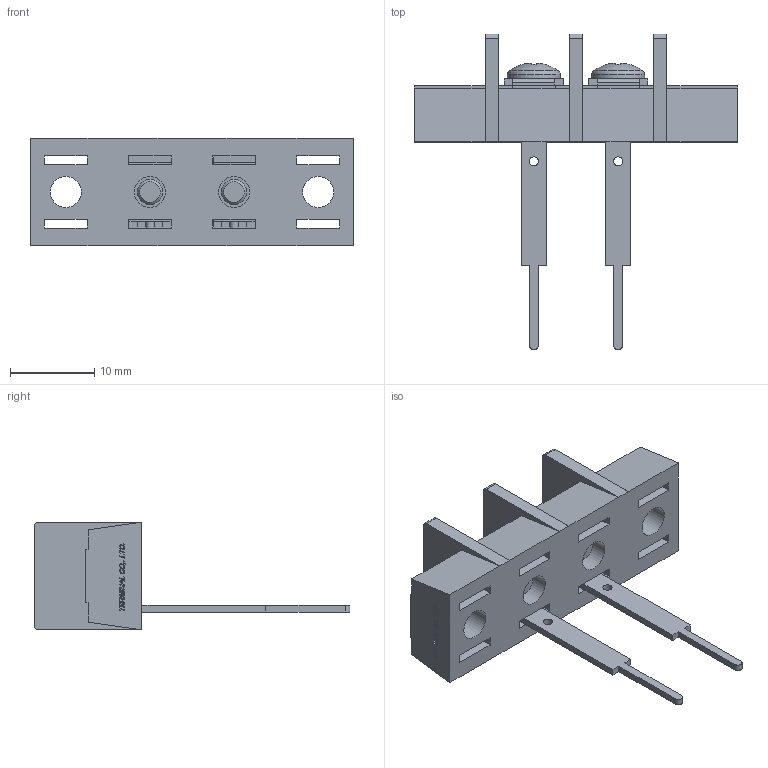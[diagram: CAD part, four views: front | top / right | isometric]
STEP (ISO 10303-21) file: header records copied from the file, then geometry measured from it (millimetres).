
FILE_DESCRIPTION(/* description */ ('Alibre Inc.'),/* implementation_level */ '2;1');
FILE_NAME(/* name */ 'export0',/* time_stamp */ '2015-10-22T20:22:25+09:00',/* author */ (''),/* organization */ (''),/* preprocessor_version */ 'ST-DEVELOPER v14',/* originating_system */ 'Alibre',/* authorisation */ '');
FILE_SCHEMA (('CONFIG_CONTROL_DESIGN'));
Length unit declared in the file: centimetre
Products named in the file (1): ID_1
Bounding box: 38.4 x 37.5 x 12.8 mm (x, y, z)
Volume: 3177.3 mm3; surface area: 3849.2 mm2
Topology: 1 solids, 35 shells, 984 faces, 2564 edges, 1700 vertices
Faces by surface type: plane 732, bspline 208, cylinder 28, cone 10, torus 4, sphere 2
Full cylindrical faces by diameter (mm): 1.1 x2, 3 x4, 3.7 x4, 4.6 x4, 6.3 x2
Entity records: 28941 total; most frequent: CARTESIAN_POINT 7081, ORIENTED_EDGE 5072, DIRECTION 2960, EDGE_CURVE 2536, VECTOR 1976, LINE 1976, VERTEX_POINT 1694, EDGE_LOOP 1100
